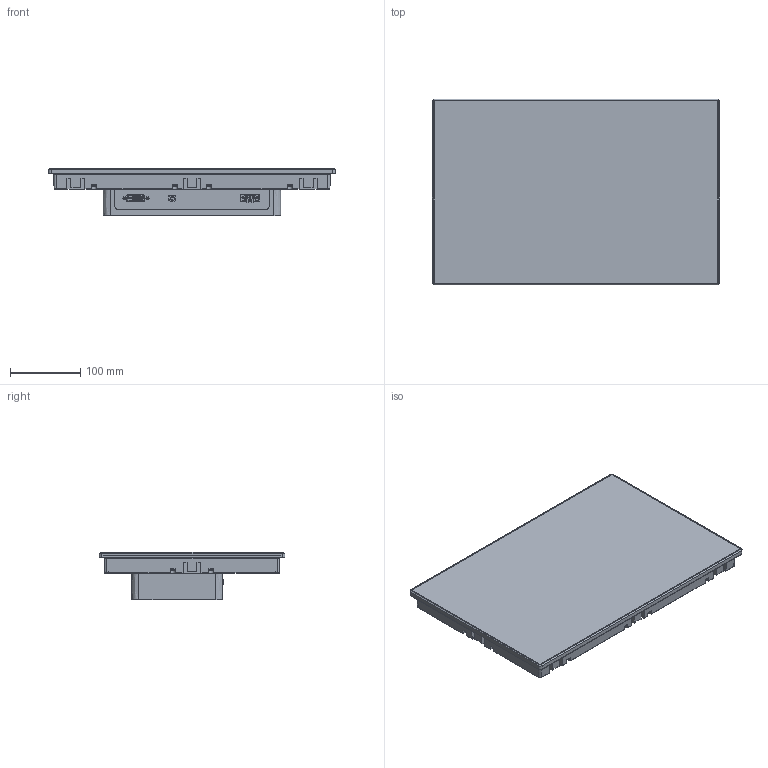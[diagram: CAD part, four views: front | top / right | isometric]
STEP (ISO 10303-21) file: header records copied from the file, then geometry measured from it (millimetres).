
FILE_DESCRIPTION((''),'2;1');
FILE_NAME('SIMPL_ASM_1_ASM','2021-06-02T10:00:36',('danae.lavaud'),(''),'CREO PARAMETRIC BY PTC INC, 2018260','CREO PARAMETRIC BY PTC INC, 2018260','');
FILE_SCHEMA(('CONFIG_CONTROL_DESIGN'));
Length unit declared in the file: inch
Products named in the file (13): HUA1145401_1_1_1_1_1_1; HUA1256901_1_1_1_1_1_1; ASM0005_ASM_1_ASM; PRT0001_1; DISPLAY_ADAPTER_20200611_1_2_10; DISPLAY_ADAPTER_20200611_1_2_12; DISPLAY_ADAPTER_20200611_1_2_11_ASM; BROCHE_ASM_1_ASM_1_ASM_1_ASM_1__ASM; PRT0001_1_1_1_1_1_1_7_1_1_1_1; SCREW_MSC_XREC_PAN_M3X36-1167_1; ASM0005_ASM_1_ASM_1_ASM_1_ASM_2_ASM; ASM0005_ASM_1_1_ASM; SIMPL_ASM_1_ASM
Assembly tree (39 placements, depth 5):
  SIMPL_ASM_1_ASM
    ASM0005_ASM_1_ASM
      HUA1145401_1_1_1_1_1_1  x8
      HUA1256901_1_1_1_1_1_1  x16
    PRT0001_1
    ASM0005_ASM_1_1_ASM
      BROCHE_ASM_1_ASM_1_ASM_1_ASM_1__ASM
        DISPLAY_ADAPTER_20200611_1_2_11_ASM
          DISPLAY_ADAPTER_20200611_1_2_10
          DISPLAY_ADAPTER_20200611_1_2_12
      PRT0001_1_1_1_1_1_1_7_1_1_1_1
      ASM0005_ASM_1_ASM_1_ASM_1_ASM_2_ASM
        SCREW_MSC_XREC_PAN_M3X36-1167_1  x6
Bounding box: 408 x 264 x 67.5 mm (x, y, z)
Volume: 4148319.9 mm3; surface area: 393598.1 mm2
Topology: 34 solids, 62 shells, 4292 faces, 12258 edges, 7932 vertices
Faces by surface type: plane 2487, cylinder 1317, cone 272, torus 140, sphere 60, bspline 12, extrusion 4
Entity records: 113461 total; most frequent: CARTESIAN_POINT 24282, ORIENTED_EDGE 19276, DIRECTION 17722, EDGE_CURVE 9658, VECTOR 7416, LINE 7412, VERTEX_POINT 6310, AXIS2_PLACEMENT_3D 5153
